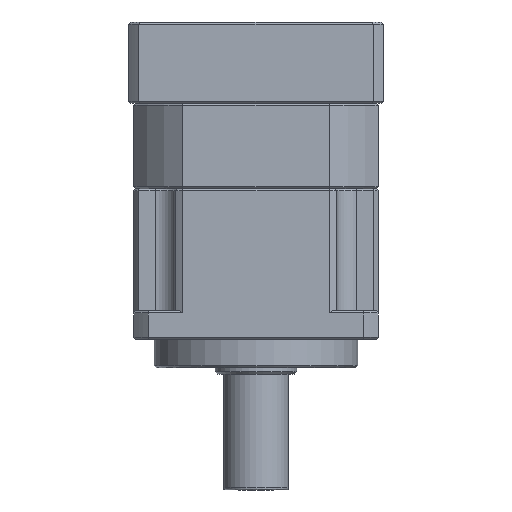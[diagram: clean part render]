
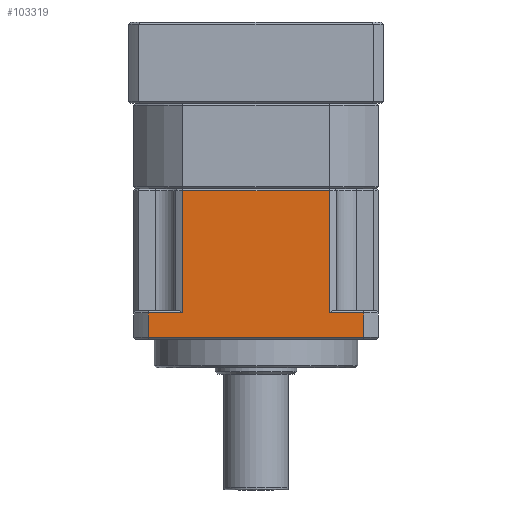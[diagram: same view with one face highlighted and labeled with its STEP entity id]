
A CAD part, front view. The second image highlights one B-rep face of the part: STEP entity #103319.
In plain terms, the highlighted planar face has unit normal (0, -1, 0).
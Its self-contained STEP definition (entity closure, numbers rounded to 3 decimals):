
#636 = LINE ( 'NONE', #114044, #24395 ) ;
#1699 = VECTOR ( 'NONE', #71986, 1000. ) ;
#2442 = DIRECTION ( 'NONE',  ( 1., 0., 0. ) ) ;
#2959 = ORIENTED_EDGE ( 'NONE', *, *, #61081, .F. ) ;
#3176 = CARTESIAN_POINT ( 'NONE',  ( -46.661, -27.039, 74.502 ) ) ;
#6569 = CARTESIAN_POINT ( 'NONE',  ( 9.797, -27.039, 111.002 ) ) ;
#9146 = CARTESIAN_POINT ( 'NONE',  ( 9.797, -27.039, 80.502 ) ) ;
#9466 = EDGE_CURVE ( 'NONE', #15227, #39888, #26881, .T. ) ;
#10685 = ORIENTED_EDGE ( 'NONE', *, *, #37024, .F. ) ;
#11131 = CARTESIAN_POINT ( 'NONE',  ( 9.797, -27.039, 80.502 ) ) ;
#11154 = CARTESIAN_POINT ( 'NONE',  ( 6.254, -27.039, 111.002 ) ) ;
#14646 = EDGE_CURVE ( 'NONE', #91199, #111688, #100199, .T. ) ;
#15227 = VERTEX_POINT ( 'NONE', #73108 ) ;
#15556 = DIRECTION ( 'NONE',  ( 0., 0., 1. ) ) ;
#17930 = VECTOR ( 'NONE', #76764, 1000. ) ;
#24395 = VECTOR ( 'NONE', #86789, 1000. ) ;
#26281 = CARTESIAN_POINT ( 'NONE',  ( -46.661, -27.039, 80.502 ) ) ;
#26562 = CARTESIAN_POINT ( 'NONE',  ( -38.231, -27.039, 80.502 ) ) ;
#26881 = LINE ( 'NONE', #11154, #45089 ) ;
#31822 = VECTOR ( 'NONE', #88429, 1000. ) ;
#32639 = CARTESIAN_POINT ( 'NONE',  ( -38.231, -27.039, 110.502 ) ) ;
#37024 = EDGE_CURVE ( 'NONE', #92192, #88675, #41111, .T. ) ;
#37618 = EDGE_CURVE ( 'NONE', #92192, #63173, #107802, .T. ) ;
#39888 = VERTEX_POINT ( 'NONE', #59553 ) ;
#40826 = ORIENTED_EDGE ( 'NONE', *, *, #14646, .F. ) ;
#41111 = LINE ( 'NONE', #101056, #53696 ) ;
#41666 = LINE ( 'NONE', #112132, #17930 ) ;
#44778 = VECTOR ( 'NONE', #2442, 1000. ) ;
#45089 = VECTOR ( 'NONE', #47439, 1000. ) ;
#47110 = ORIENTED_EDGE ( 'NONE', *, *, #56220, .F. ) ;
#47439 = DIRECTION ( 'NONE',  ( 0., 0., -1. ) ) ;
#52494 = CARTESIAN_POINT ( 'NONE',  ( -50.203, -27.039, 110.502 ) ) ;
#53696 = VECTOR ( 'NONE', #109938, 1000. ) ;
#54458 = EDGE_CURVE ( 'NONE', #88675, #15227, #75810, .T. ) ;
#54895 = VERTEX_POINT ( 'NONE', #26562 ) ;
#55737 = EDGE_LOOP ( 'NONE', ( #10685, #70059, #47110, #2959, #40826, #88800, #97228, #87292 ) ) ;
#56220 = EDGE_CURVE ( 'NONE', #54895, #63173, #41666, .T. ) ;
#59553 = CARTESIAN_POINT ( 'NONE',  ( 6.254, -27.039, 74.502 ) ) ;
#60433 = VECTOR ( 'NONE', #114778, 1000. ) ;
#61081 = EDGE_CURVE ( 'NONE', #111688, #54895, #68503, .T. ) ;
#62546 = FACE_OUTER_BOUND ( 'NONE', #55737, .T. ) ;
#63173 = VERTEX_POINT ( 'NONE', #32639 ) ;
#68503 = LINE ( 'NONE', #11131, #44778 ) ;
#69053 = DIRECTION ( 'NONE',  ( 0., 1., 0. ) ) ;
#70059 = ORIENTED_EDGE ( 'NONE', *, *, #37618, .T. ) ;
#71986 = DIRECTION ( 'NONE',  ( 1., 0., 0. ) ) ;
#73108 = CARTESIAN_POINT ( 'NONE',  ( 6.254, -27.039, 80.502 ) ) ;
#75810 = LINE ( 'NONE', #9146, #1699 ) ;
#76764 = DIRECTION ( 'NONE',  ( 0., 0., 1. ) ) ;
#79908 = CARTESIAN_POINT ( 'NONE',  ( -46.661, -27.039, 111.002 ) ) ;
#84337 = CARTESIAN_POINT ( 'NONE',  ( -2.175, -27.039, 80.502 ) ) ;
#86516 = PLANE ( 'NONE',  #87257 ) ;
#86789 = DIRECTION ( 'NONE',  ( -1., 0., 0. ) ) ;
#87257 = AXIS2_PLACEMENT_3D ( 'NONE', #6569, #69053, #15556 ) ;
#87292 = ORIENTED_EDGE ( 'NONE', *, *, #54458, .F. ) ;
#88429 = DIRECTION ( 'NONE',  ( 0., 0., 1. ) ) ;
#88675 = VERTEX_POINT ( 'NONE', #84337 ) ;
#88800 = ORIENTED_EDGE ( 'NONE', *, *, #101121, .F. ) ;
#91199 = VERTEX_POINT ( 'NONE', #3176 ) ;
#92192 = VERTEX_POINT ( 'NONE', #95096 ) ;
#95096 = CARTESIAN_POINT ( 'NONE',  ( -2.175, -27.039, 110.502 ) ) ;
#97228 = ORIENTED_EDGE ( 'NONE', *, *, #9466, .F. ) ;
#100199 = LINE ( 'NONE', #79908, #31822 ) ;
#101056 = CARTESIAN_POINT ( 'NONE',  ( -2.175, -27.039, 111.002 ) ) ;
#101121 = EDGE_CURVE ( 'NONE', #39888, #91199, #636, .T. ) ;
#103319 = ADVANCED_FACE ( 'NONE', ( #62546 ), #86516, .F. ) ;
#107802 = LINE ( 'NONE', #52494, #60433 ) ;
#109938 = DIRECTION ( 'NONE',  ( 0., 0., -1. ) ) ;
#111688 = VERTEX_POINT ( 'NONE', #26281 ) ;
#112132 = CARTESIAN_POINT ( 'NONE',  ( -38.231, -27.039, 111.002 ) ) ;
#114044 = CARTESIAN_POINT ( 'NONE',  ( 9.797, -27.039, 74.502 ) ) ;
#114778 = DIRECTION ( 'NONE',  ( -1., 0., 0. ) ) ;
